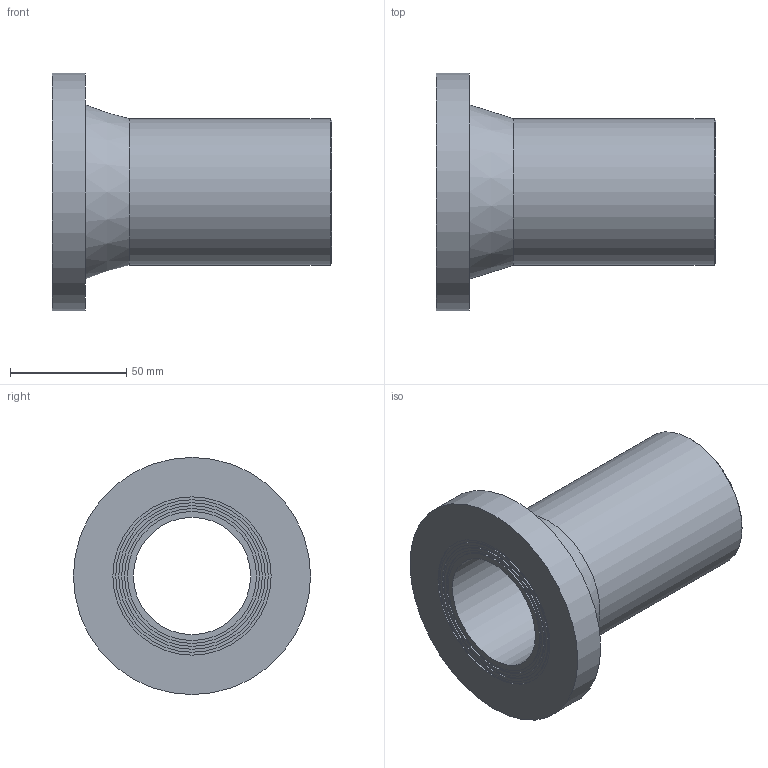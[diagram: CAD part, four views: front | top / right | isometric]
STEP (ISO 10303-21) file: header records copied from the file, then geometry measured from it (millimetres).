
FILE_DESCRIPTION(/* description */ ('Stub Flange 63'),/* implementation_level */ '2;1');
FILE_NAME(/* name */ 'C:\Dropbox\KIMPROJECTS-Inventor\99-16-3568-Processing\ElectroFusion Fittings\31.03.19\490207\490207063.ipt.stp',/* time_stamp */ '2019-03-31T18:57:41+03:00',/* author */ ('Кирилл'),/* organization */ (''),/* preprocessor_version */ 'ST-DEVELOPER v15.6',/* originating_system */ 'Autodesk Inventor 2015',/* authorisation */ '');
FILE_SCHEMA (('AUTOMOTIVE_DESIGN { 1 0 10303 214 3 1 1 }'));
Length unit declared in the file: millimetre
Products named in the file (1): 490207063
Bounding box: 120 x 102 x 102 mm (x, y, z)
Volume: 216918.3 mm3; surface area: 56736.2 mm2
Topology: 1 solids, 1 shells, 20 faces, 31 edges, 20 vertices
Faces by surface type: cylinder 9, plane 9, cone 2
Full cylindrical faces by diameter (mm): 50.4 x1, 55.44 x1, 57.96 x1, 60.48 x1, 63 x2, 65.52 x1, 68.04 x1, 102 x1
Entity records: 432 total; most frequent: DIRECTION 82, CARTESIAN_POINT 61, AXIS2_PLACEMENT_3D 41, EDGE_LOOP 40, ORIENTED_EDGE 40, FACE_BOUND 20, FACE_OUTER_BOUND 20, CIRCLE 20
